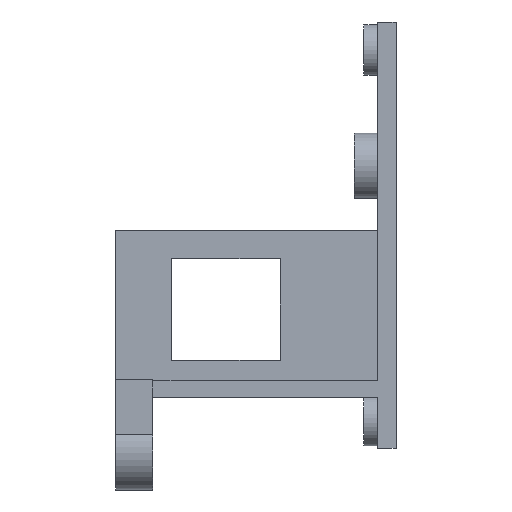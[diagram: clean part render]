
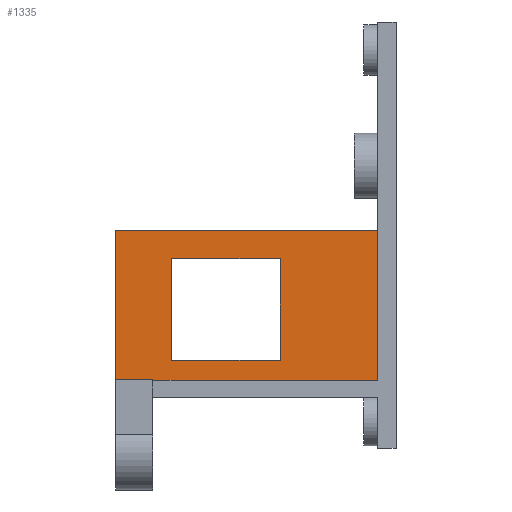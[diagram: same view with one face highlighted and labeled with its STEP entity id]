
A CAD part, top view. The second image highlights one B-rep face of the part: STEP entity #1335.
In plain terms, the highlighted planar face has unit normal (0, 0, 1).
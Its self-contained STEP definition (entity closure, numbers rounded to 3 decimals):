
#32 = PLANE('',#33);
#33 = AXIS2_PLACEMENT_3D('',#34,#35,#36);
#34 = CARTESIAN_POINT('',(-9.,-31.,-26.));
#35 = DIRECTION('',(1.,0.,0.));
#36 = DIRECTION('',(0.,0.,1.));
#113 = VERTEX_POINT('',#114);
#114 = CARTESIAN_POINT('',(-9.,-20.,-25.3));
#127 = PLANE('',#128);
#128 = AXIS2_PLACEMENT_3D('',#129,#130,#131);
#129 = CARTESIAN_POINT('',(-65.5,-20.,-28.5));
#130 = DIRECTION('',(0.,1.,0.));
#131 = DIRECTION('',(0.,0.,1.));
#138 = EDGE_CURVE('',#139,#113,#141,.T.);
#139 = VERTEX_POINT('',#140);
#140 = CARTESIAN_POINT('',(-9.,16.,-25.3));
#141 = SURFACE_CURVE('',#142,(#146,#152),.PCURVE_S1.);
#142 = LINE('',#143,#144);
#143 = CARTESIAN_POINT('',(-9.,-25.5,-25.3));
#144 = VECTOR('',#145,1.);
#145 = DIRECTION('',(0.,-1.,0.));
#146 = PCURVE('',#32,#147);
#147 = DEFINITIONAL_REPRESENTATION('',(#148),#151);
#148 = B_SPLINE_CURVE_WITH_KNOTS('',1,(#149,#150),.UNSPECIFIED.,.F.,.F.,
  (2,2),(-41.5,-5.5),.PIECEWISE_BEZIER_KNOTS.);
#149 = CARTESIAN_POINT('',(0.7,-47.));
#150 = CARTESIAN_POINT('',(0.7,-11.));
#151 = ( GEOMETRIC_REPRESENTATION_CONTEXT(2) 
PARAMETRIC_REPRESENTATION_CONTEXT() REPRESENTATION_CONTEXT('2D SPACE',''
  ) );
#152 = PCURVE('',#153,#158);
#153 = PLANE('',#154);
#154 = AXIS2_PLACEMENT_3D('',#155,#156,#157);
#155 = CARTESIAN_POINT('',(-65.5,-20.,-25.3));
#156 = DIRECTION('',(0.,0.,1.));
#157 = DIRECTION('',(1.,0.,0.));
#158 = DEFINITIONAL_REPRESENTATION('',(#159),#162);
#159 = B_SPLINE_CURVE_WITH_KNOTS('',1,(#160,#161),.UNSPECIFIED.,.F.,.F.,
  (2,2),(-41.5,-5.5),.PIECEWISE_BEZIER_KNOTS.);
#160 = CARTESIAN_POINT('',(56.5,36.));
#161 = CARTESIAN_POINT('',(56.5,0.));
#162 = ( GEOMETRIC_REPRESENTATION_CONTEXT(2) 
PARAMETRIC_REPRESENTATION_CONTEXT() REPRESENTATION_CONTEXT('2D SPACE',''
  ) );
#179 = PLANE('',#180);
#180 = AXIS2_PLACEMENT_3D('',#181,#182,#183);
#181 = CARTESIAN_POINT('',(-65.5,16.,-28.5));
#182 = DIRECTION('',(0.,1.,0.));
#183 = DIRECTION('',(0.,0.,1.));
#1286 = VERTEX_POINT('',#1287);
#1287 = CARTESIAN_POINT('',(-65.5,-20.,-25.3));
#1301 = PLANE('',#1302);
#1302 = AXIS2_PLACEMENT_3D('',#1303,#1304,#1305);
#1303 = CARTESIAN_POINT('',(-65.5,-20.,-28.5));
#1304 = DIRECTION('',(1.,0.,0.));
#1305 = DIRECTION('',(0.,0.,1.));
#1313 = EDGE_CURVE('',#1286,#113,#1314,.T.);
#1314 = SURFACE_CURVE('',#1315,(#1319,#1326),.PCURVE_S1.);
#1315 = LINE('',#1316,#1317);
#1316 = CARTESIAN_POINT('',(-65.5,-20.,-25.3));
#1317 = VECTOR('',#1318,1.);
#1318 = DIRECTION('',(1.,0.,0.));
#1319 = PCURVE('',#127,#1320);
#1320 = DEFINITIONAL_REPRESENTATION('',(#1321),#1325);
#1321 = LINE('',#1322,#1323);
#1322 = CARTESIAN_POINT('',(3.2,0.));
#1323 = VECTOR('',#1324,1.);
#1324 = DIRECTION('',(0.,1.));
#1325 = ( GEOMETRIC_REPRESENTATION_CONTEXT(2) 
PARAMETRIC_REPRESENTATION_CONTEXT() REPRESENTATION_CONTEXT('2D SPACE',''
  ) );
#1326 = PCURVE('',#153,#1327);
#1327 = DEFINITIONAL_REPRESENTATION('',(#1328),#1332);
#1328 = LINE('',#1329,#1330);
#1329 = CARTESIAN_POINT('',(0.,0.));
#1330 = VECTOR('',#1331,1.);
#1331 = DIRECTION('',(1.,0.));
#1332 = ( GEOMETRIC_REPRESENTATION_CONTEXT(2) 
PARAMETRIC_REPRESENTATION_CONTEXT() REPRESENTATION_CONTEXT('2D SPACE',''
  ) );
#1335 = ADVANCED_FACE('',(#1336,#1384),#153,.T.);
#1336 = FACE_BOUND('',#1337,.T.);
#1337 = EDGE_LOOP('',(#1338,#1361,#1382,#1383));
#1338 = ORIENTED_EDGE('',*,*,#1339,.F.);
#1339 = EDGE_CURVE('',#1340,#139,#1342,.T.);
#1340 = VERTEX_POINT('',#1341);
#1341 = CARTESIAN_POINT('',(-65.5,16.,-25.3));
#1342 = SURFACE_CURVE('',#1343,(#1347,#1354),.PCURVE_S1.);
#1343 = LINE('',#1344,#1345);
#1344 = CARTESIAN_POINT('',(-65.5,16.,-25.3));
#1345 = VECTOR('',#1346,1.);
#1346 = DIRECTION('',(1.,0.,0.));
#1347 = PCURVE('',#153,#1348);
#1348 = DEFINITIONAL_REPRESENTATION('',(#1349),#1353);
#1349 = LINE('',#1350,#1351);
#1350 = CARTESIAN_POINT('',(0.,36.));
#1351 = VECTOR('',#1352,1.);
#1352 = DIRECTION('',(1.,0.));
#1353 = ( GEOMETRIC_REPRESENTATION_CONTEXT(2) 
PARAMETRIC_REPRESENTATION_CONTEXT() REPRESENTATION_CONTEXT('2D SPACE',''
  ) );
#1354 = PCURVE('',#179,#1355);
#1355 = DEFINITIONAL_REPRESENTATION('',(#1356),#1360);
#1356 = LINE('',#1357,#1358);
#1357 = CARTESIAN_POINT('',(3.2,0.));
#1358 = VECTOR('',#1359,1.);
#1359 = DIRECTION('',(0.,1.));
#1360 = ( GEOMETRIC_REPRESENTATION_CONTEXT(2) 
PARAMETRIC_REPRESENTATION_CONTEXT() REPRESENTATION_CONTEXT('2D SPACE',''
  ) );
#1361 = ORIENTED_EDGE('',*,*,#1362,.F.);
#1362 = EDGE_CURVE('',#1286,#1340,#1363,.T.);
#1363 = SURFACE_CURVE('',#1364,(#1368,#1375),.PCURVE_S1.);
#1364 = LINE('',#1365,#1366);
#1365 = CARTESIAN_POINT('',(-65.5,-20.,-25.3));
#1366 = VECTOR('',#1367,1.);
#1367 = DIRECTION('',(0.,1.,0.));
#1368 = PCURVE('',#153,#1369);
#1369 = DEFINITIONAL_REPRESENTATION('',(#1370),#1374);
#1370 = LINE('',#1371,#1372);
#1371 = CARTESIAN_POINT('',(0.,0.));
#1372 = VECTOR('',#1373,1.);
#1373 = DIRECTION('',(0.,1.));
#1374 = ( GEOMETRIC_REPRESENTATION_CONTEXT(2) 
PARAMETRIC_REPRESENTATION_CONTEXT() REPRESENTATION_CONTEXT('2D SPACE',''
  ) );
#1375 = PCURVE('',#1301,#1376);
#1376 = DEFINITIONAL_REPRESENTATION('',(#1377),#1381);
#1377 = LINE('',#1378,#1379);
#1378 = CARTESIAN_POINT('',(3.2,0.));
#1379 = VECTOR('',#1380,1.);
#1380 = DIRECTION('',(0.,-1.));
#1381 = ( GEOMETRIC_REPRESENTATION_CONTEXT(2) 
PARAMETRIC_REPRESENTATION_CONTEXT() REPRESENTATION_CONTEXT('2D SPACE',''
  ) );
#1382 = ORIENTED_EDGE('',*,*,#1313,.T.);
#1383 = ORIENTED_EDGE('',*,*,#138,.F.);
#1384 = FACE_BOUND('',#1385,.T.);
#1385 = EDGE_LOOP('',(#1386,#1414,#1440,#1466));
#1386 = ORIENTED_EDGE('',*,*,#1387,.T.);
#1387 = EDGE_CURVE('',#1388,#1390,#1392,.T.);
#1388 = VERTEX_POINT('',#1389);
#1389 = CARTESIAN_POINT('',(-30.,-12.,-25.3));
#1390 = VERTEX_POINT('',#1391);
#1391 = CARTESIAN_POINT('',(-53.5,-12.,-25.3));
#1392 = SURFACE_CURVE('',#1393,(#1397,#1403),.PCURVE_S1.);
#1393 = LINE('',#1394,#1395);
#1394 = CARTESIAN_POINT('',(-59.5,-12.,-25.3));
#1395 = VECTOR('',#1396,1.);
#1396 = DIRECTION('',(-1.,0.,0.));
#1397 = PCURVE('',#153,#1398);
#1398 = DEFINITIONAL_REPRESENTATION('',(#1399),#1402);
#1399 = B_SPLINE_CURVE_WITH_KNOTS('',1,(#1400,#1401),.UNSPECIFIED.,.F.,
  .F.,(2,2),(-29.5,-6.),.PIECEWISE_BEZIER_KNOTS.);
#1400 = CARTESIAN_POINT('',(35.5,8.));
#1401 = CARTESIAN_POINT('',(12.,8.));
#1402 = ( GEOMETRIC_REPRESENTATION_CONTEXT(2) 
PARAMETRIC_REPRESENTATION_CONTEXT() REPRESENTATION_CONTEXT('2D SPACE',''
  ) );
#1403 = PCURVE('',#1404,#1409);
#1404 = PLANE('',#1405);
#1405 = AXIS2_PLACEMENT_3D('',#1406,#1407,#1408);
#1406 = CARTESIAN_POINT('',(-53.5,-12.,-29.5));
#1407 = DIRECTION('',(0.,1.,0.));
#1408 = DIRECTION('',(0.,0.,1.));
#1409 = DEFINITIONAL_REPRESENTATION('',(#1410),#1413);
#1410 = B_SPLINE_CURVE_WITH_KNOTS('',1,(#1411,#1412),.UNSPECIFIED.,.F.,
  .F.,(2,2),(-29.5,-6.),.PIECEWISE_BEZIER_KNOTS.);
#1411 = CARTESIAN_POINT('',(4.2,23.5));
#1412 = CARTESIAN_POINT('',(4.2,0.));
#1413 = ( GEOMETRIC_REPRESENTATION_CONTEXT(2) 
PARAMETRIC_REPRESENTATION_CONTEXT() REPRESENTATION_CONTEXT('2D SPACE',''
  ) );
#1414 = ORIENTED_EDGE('',*,*,#1415,.T.);
#1415 = EDGE_CURVE('',#1390,#1416,#1418,.T.);
#1416 = VERTEX_POINT('',#1417);
#1417 = CARTESIAN_POINT('',(-53.5,10.,-25.3));
#1418 = SURFACE_CURVE('',#1419,(#1423,#1429),.PCURVE_S1.);
#1419 = LINE('',#1420,#1421);
#1420 = CARTESIAN_POINT('',(-53.5,-16.,-25.3));
#1421 = VECTOR('',#1422,1.);
#1422 = DIRECTION('',(0.,1.,0.));
#1423 = PCURVE('',#153,#1424);
#1424 = DEFINITIONAL_REPRESENTATION('',(#1425),#1428);
#1425 = B_SPLINE_CURVE_WITH_KNOTS('',1,(#1426,#1427),.UNSPECIFIED.,.F.,
  .F.,(2,2),(4.,26.),.PIECEWISE_BEZIER_KNOTS.);
#1426 = CARTESIAN_POINT('',(12.,8.));
#1427 = CARTESIAN_POINT('',(12.,30.));
#1428 = ( GEOMETRIC_REPRESENTATION_CONTEXT(2) 
PARAMETRIC_REPRESENTATION_CONTEXT() REPRESENTATION_CONTEXT('2D SPACE',''
  ) );
#1429 = PCURVE('',#1430,#1435);
#1430 = PLANE('',#1431);
#1431 = AXIS2_PLACEMENT_3D('',#1432,#1433,#1434);
#1432 = CARTESIAN_POINT('',(-53.5,-12.,-29.5));
#1433 = DIRECTION('',(1.,0.,0.));
#1434 = DIRECTION('',(0.,0.,1.));
#1435 = DEFINITIONAL_REPRESENTATION('',(#1436),#1439);
#1436 = B_SPLINE_CURVE_WITH_KNOTS('',1,(#1437,#1438),.UNSPECIFIED.,.F.,
  .F.,(2,2),(4.,26.),.PIECEWISE_BEZIER_KNOTS.);
#1437 = CARTESIAN_POINT('',(4.2,0.));
#1438 = CARTESIAN_POINT('',(4.2,-22.));
#1439 = ( GEOMETRIC_REPRESENTATION_CONTEXT(2) 
PARAMETRIC_REPRESENTATION_CONTEXT() REPRESENTATION_CONTEXT('2D SPACE',''
  ) );
#1440 = ORIENTED_EDGE('',*,*,#1441,.F.);
#1441 = EDGE_CURVE('',#1442,#1416,#1444,.T.);
#1442 = VERTEX_POINT('',#1443);
#1443 = CARTESIAN_POINT('',(-30.,10.,-25.3));
#1444 = SURFACE_CURVE('',#1445,(#1449,#1455),.PCURVE_S1.);
#1445 = LINE('',#1446,#1447);
#1446 = CARTESIAN_POINT('',(-59.5,10.,-25.3));
#1447 = VECTOR('',#1448,1.);
#1448 = DIRECTION('',(-1.,0.,0.));
#1449 = PCURVE('',#153,#1450);
#1450 = DEFINITIONAL_REPRESENTATION('',(#1451),#1454);
#1451 = B_SPLINE_CURVE_WITH_KNOTS('',1,(#1452,#1453),.UNSPECIFIED.,.F.,
  .F.,(2,2),(-29.5,-6.),.PIECEWISE_BEZIER_KNOTS.);
#1452 = CARTESIAN_POINT('',(35.5,30.));
#1453 = CARTESIAN_POINT('',(12.,30.));
#1454 = ( GEOMETRIC_REPRESENTATION_CONTEXT(2) 
PARAMETRIC_REPRESENTATION_CONTEXT() REPRESENTATION_CONTEXT('2D SPACE',''
  ) );
#1455 = PCURVE('',#1456,#1461);
#1456 = PLANE('',#1457);
#1457 = AXIS2_PLACEMENT_3D('',#1458,#1459,#1460);
#1458 = CARTESIAN_POINT('',(-53.5,10.,-29.5));
#1459 = DIRECTION('',(0.,1.,0.));
#1460 = DIRECTION('',(0.,0.,1.));
#1461 = DEFINITIONAL_REPRESENTATION('',(#1462),#1465);
#1462 = B_SPLINE_CURVE_WITH_KNOTS('',1,(#1463,#1464),.UNSPECIFIED.,.F.,
  .F.,(2,2),(-29.5,-6.),.PIECEWISE_BEZIER_KNOTS.);
#1463 = CARTESIAN_POINT('',(4.2,23.5));
#1464 = CARTESIAN_POINT('',(4.2,0.));
#1465 = ( GEOMETRIC_REPRESENTATION_CONTEXT(2) 
PARAMETRIC_REPRESENTATION_CONTEXT() REPRESENTATION_CONTEXT('2D SPACE',''
  ) );
#1466 = ORIENTED_EDGE('',*,*,#1467,.F.);
#1467 = EDGE_CURVE('',#1388,#1442,#1468,.T.);
#1468 = SURFACE_CURVE('',#1469,(#1473,#1479),.PCURVE_S1.);
#1469 = LINE('',#1470,#1471);
#1470 = CARTESIAN_POINT('',(-30.,-16.,-25.3));
#1471 = VECTOR('',#1472,1.);
#1472 = DIRECTION('',(0.,1.,0.));
#1473 = PCURVE('',#153,#1474);
#1474 = DEFINITIONAL_REPRESENTATION('',(#1475),#1478);
#1475 = B_SPLINE_CURVE_WITH_KNOTS('',1,(#1476,#1477),.UNSPECIFIED.,.F.,
  .F.,(2,2),(4.,26.),.PIECEWISE_BEZIER_KNOTS.);
#1476 = CARTESIAN_POINT('',(35.5,8.));
#1477 = CARTESIAN_POINT('',(35.5,30.));
#1478 = ( GEOMETRIC_REPRESENTATION_CONTEXT(2) 
PARAMETRIC_REPRESENTATION_CONTEXT() REPRESENTATION_CONTEXT('2D SPACE',''
  ) );
#1479 = PCURVE('',#1480,#1485);
#1480 = PLANE('',#1481);
#1481 = AXIS2_PLACEMENT_3D('',#1482,#1483,#1484);
#1482 = CARTESIAN_POINT('',(-30.,-12.,-29.5));
#1483 = DIRECTION('',(1.,0.,0.));
#1484 = DIRECTION('',(0.,0.,1.));
#1485 = DEFINITIONAL_REPRESENTATION('',(#1486),#1489);
#1486 = B_SPLINE_CURVE_WITH_KNOTS('',1,(#1487,#1488),.UNSPECIFIED.,.F.,
  .F.,(2,2),(4.,26.),.PIECEWISE_BEZIER_KNOTS.);
#1487 = CARTESIAN_POINT('',(4.2,0.));
#1488 = CARTESIAN_POINT('',(4.2,-22.));
#1489 = ( GEOMETRIC_REPRESENTATION_CONTEXT(2) 
PARAMETRIC_REPRESENTATION_CONTEXT() REPRESENTATION_CONTEXT('2D SPACE',''
  ) );
